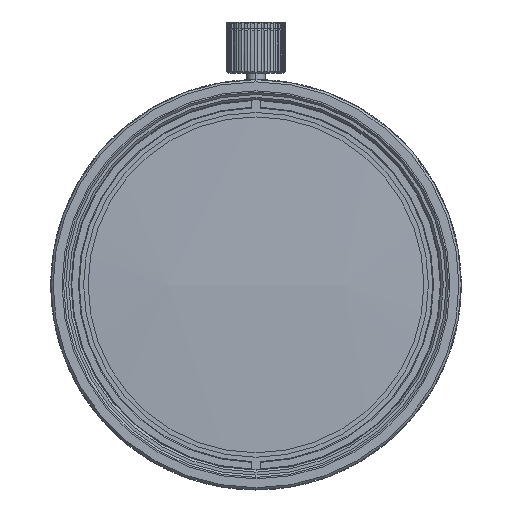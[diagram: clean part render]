
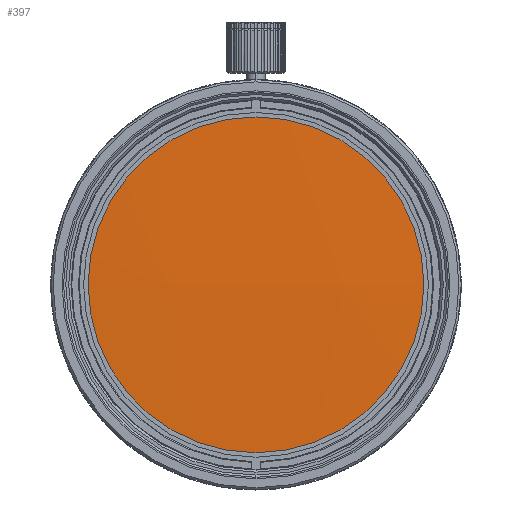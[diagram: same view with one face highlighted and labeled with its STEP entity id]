
A CAD part, left-side view. The second image highlights one B-rep face of the part: STEP entity #397.
In plain terms, the highlighted spherical face has radius 403.068 mm.
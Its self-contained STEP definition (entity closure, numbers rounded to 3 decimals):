
#336=CARTESIAN_POINT('',(0.,0.,-62.871));
#337=DIRECTION('',(0.,0.,1.));
#338=DIRECTION('',(1.,0.,0.));
#339=AXIS2_PLACEMENT_3D('',#336,#337,#338);
#341=CARTESIAN_POINT('',(0.,0.,-62.871));
#342=DIRECTION('',(0.,0.,1.));
#343=DIRECTION('',(-1.,0.,0.));
#344=AXIS2_PLACEMENT_3D('',#341,#342,#343);
#374=CARTESIAN_POINT('',(23.5,0.,-62.871));
#375=CARTESIAN_POINT('',(-23.5,0.,-62.871));
#376=VERTEX_POINT('',#374);
#377=VERTEX_POINT('',#375);
#386=CARTESIAN_POINT('',(0.,0.,
339.511));
#387=DIRECTION('',(1.,0.,0.));
#388=DIRECTION('',(0.,-1.,0.));
#389=AXIS2_PLACEMENT_3D('',#386,#387,#388);
#390=SPHERICAL_SURFACE('',#389,403.068);
#392=ORIENTED_EDGE('',*,*,#391,.T.);
#394=ORIENTED_EDGE('',*,*,#393,.T.);
#395=EDGE_LOOP('',(#392,#394));
#396=FACE_OUTER_BOUND('',#395,.F.);
#397=ADVANCED_FACE('',(#396),#390,.T.);
#340=CIRCLE('',#339,23.5);
#345=CIRCLE('',#344,23.5);
#391=EDGE_CURVE('',#376,#377,#340,.T.);
#393=EDGE_CURVE('',#377,#376,#345,.T.);
